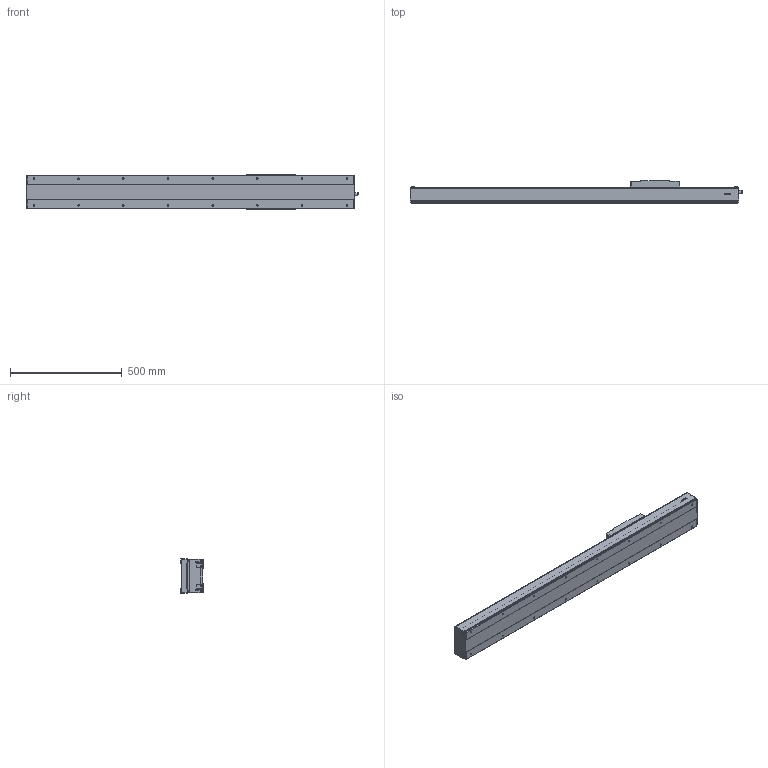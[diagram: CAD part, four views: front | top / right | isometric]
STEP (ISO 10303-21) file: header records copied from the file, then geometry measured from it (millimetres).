
FILE_DESCRIPTION(/* description */ (''),/* implementation_level */ '2;1');
FILE_NAME(/* name */ 'D:\混合母檔20191031\混和母檔\混和母檔\bin\Debug\Download\3D\KS150-10C-950AFI\KS150-10C-950AFI.stp',/* time_stamp */ '2019-11-04T15:51:41+08:00',/* author */ ('user'),/* organization */ (''),/* preprocessor_version */ 'ST-DEVELOPER v16.13',/* originating_system */ 'Autodesk Inventor 2018',/* authorisation */ '');
FILE_SCHEMA (('AUTOMOTIVE_DESIGN { 1 0 10303 214 3 1 1 }'));
Length unit declared in the file: millimetre
Products named in the file (3): KS150-10C-950AFI; KS150-FI; KS150-SL
Assembly tree (2 placements, depth 2):
  KS150-10C-950AFI
    KS150-FI
    KS150-SL
Bounding box: 1485.05 x 100 x 152.4 mm (x, y, z)
Volume: 6058892.6 mm3; surface area: 1454481.6 mm2
Topology: 4 solids, 8 shells, 1245 faces, 3285 edges, 2130 vertices
Faces by surface type: plane 615, cone 230, cylinder 192, bspline 136, torus 68, sphere 4
Full cylindrical faces by diameter (mm): 3.242 x12, 3.571 x8, 4.134 x4, 4.5 x8, 4.509 x6, 4.917 x4, 5 x18, 5.5 x12, 6 x2, 6.647 x20, 8 x4, 8.4 x8, 9.3 x12, 10.437 x1, 12 x1, 14 x1, 15 x1, 15.538 x1, 23 x1, 46 x1, 50 x1
Entity records: 41048 total; most frequent: CARTESIAN_POINT 12732, ORIENTED_EDGE 5848, DIRECTION 5441, EDGE_CURVE 2924, VERTEX_POINT 2020, AXIS2_PLACEMENT_3D 1888, LINE 1665, VECTOR 1665
